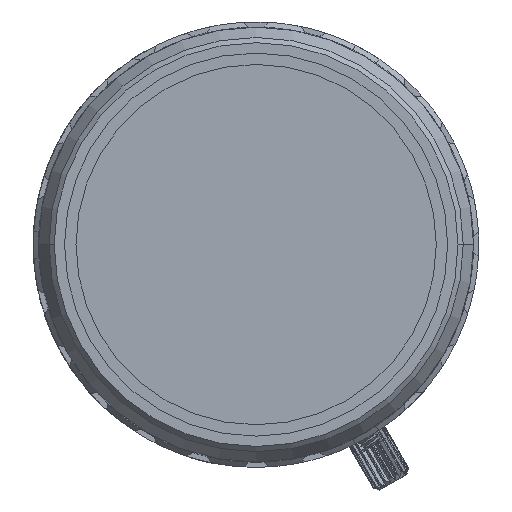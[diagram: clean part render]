
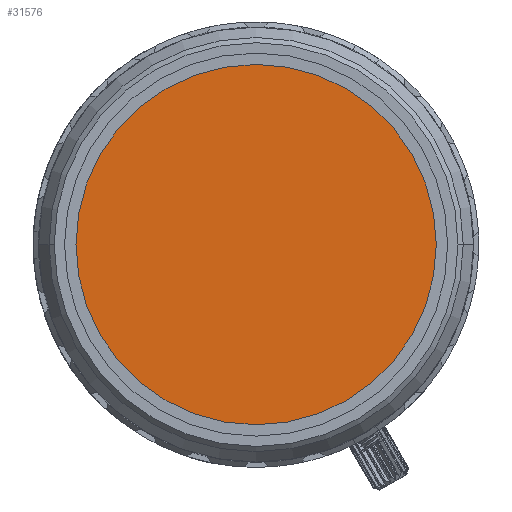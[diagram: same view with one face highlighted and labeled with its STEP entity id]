
A CAD part, left-side view. The second image highlights one B-rep face of the part: STEP entity #31576.
In plain terms, the highlighted planar face has unit normal (-1, 0, 0).
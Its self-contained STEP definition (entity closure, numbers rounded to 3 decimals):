
#5921=CARTESIAN_POINT('',(-1.338,0.,0.));
#5922=DIRECTION('',(1.,0.,0.));
#5923=DIRECTION('',(0.,1.,0.));
#5924=AXIS2_PLACEMENT_3D('',#5921,#5922,#5923);
#5926=CARTESIAN_POINT('',(-1.338,0.,0.));
#5927=DIRECTION('',(1.,0.,0.));
#5928=DIRECTION('',(0.,-1.,0.));
#5929=AXIS2_PLACEMENT_3D('',#5926,#5927,#5928);
#25437=CARTESIAN_POINT('',(-1.338,17.4,0.));
#25438=CARTESIAN_POINT('',(-1.338,-17.4,0.));
#25439=VERTEX_POINT('',#25437);
#25440=VERTEX_POINT('',#25438);
#31566=CARTESIAN_POINT('',(-1.338,0.,0.));
#31567=DIRECTION('',(1.,0.,0.));
#31568=DIRECTION('',(0.,1.,0.));
#31569=AXIS2_PLACEMENT_3D('',#31566,#31567,#31568);
#31570=PLANE('',#31569);
#31571=ORIENTED_EDGE('',*,*,#31556,.T.);
#31573=ORIENTED_EDGE('',*,*,#31572,.T.);
#31574=EDGE_LOOP('',(#31571,#31573));
#31575=FACE_OUTER_BOUND('',#31574,.F.);
#5925=CIRCLE('',#5924,17.4);
#5930=CIRCLE('',#5929,17.4);
#31556=EDGE_CURVE('',#25439,#25440,#5925,.T.);
#31572=EDGE_CURVE('',#25440,#25439,#5930,.T.);
#31576=ADVANCED_FACE('',(#31575),#31570,.F.);
